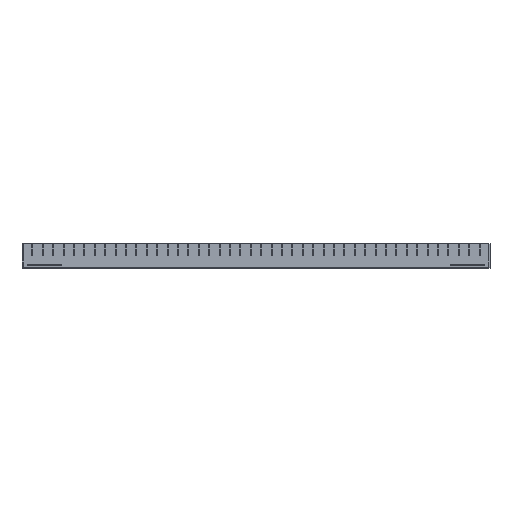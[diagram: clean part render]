
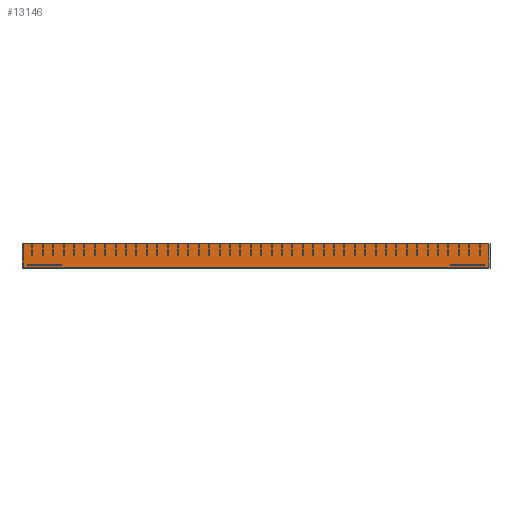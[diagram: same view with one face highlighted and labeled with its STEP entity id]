
A CAD part, top view. The second image highlights one B-rep face of the part: STEP entity #13146.
In plain terms, the highlighted planar face has unit normal (0, 0, 1).
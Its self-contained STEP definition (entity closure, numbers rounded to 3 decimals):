
#259 = AXIS2_PLACEMENT_3D ( 'NONE', #11536, #5368, #14028 ) ;
#1675 = CARTESIAN_POINT ( 'NONE',  ( -63.234, -4.407, 3. ) ) ;
#2099 = CARTESIAN_POINT ( 'NONE',  ( -63.234, 45.593, 3. ) ) ;
#2179 = EDGE_LOOP ( 'NONE', ( #14642, #15071, #14323, #14000 ) ) ;
#3580 = CARTESIAN_POINT ( 'NONE',  ( 930.766, 45.593, 3. ) ) ;
#3779 = VERTEX_POINT ( 'NONE', #3580 ) ;
#3833 = EDGE_CURVE ( 'NONE', #6375, #12278, #15697, .T. ) ;
#4101 = PLANE ( 'NONE',  #259 ) ;
#5368 = DIRECTION ( 'NONE',  ( 0., 0., 1. ) ) ;
#6192 = VECTOR ( 'NONE', #9914, 1000. ) ;
#6375 = VERTEX_POINT ( 'NONE', #1675 ) ;
#6730 = CARTESIAN_POINT ( 'NONE',  ( 930.766, 45.593, 3. ) ) ;
#7830 = VECTOR ( 'NONE', #11639, 1000. ) ;
#8075 = LINE ( 'NONE', #2099, #15054 ) ;
#8805 = EDGE_CURVE ( 'NONE', #3779, #11847, #8075, .T. ) ;
#9914 = DIRECTION ( 'NONE',  ( 1., 0., 0. ) ) ;
#10567 = CARTESIAN_POINT ( 'NONE',  ( -63.234, 45.593, 3. ) ) ;
#10646 = CARTESIAN_POINT ( 'NONE',  ( -63.234, 45.593, 3. ) ) ;
#10801 = DIRECTION ( 'NONE',  ( -1., 0., 0. ) ) ;
#11331 = CARTESIAN_POINT ( 'NONE',  ( 930.766, -4.407, 3. ) ) ;
#11536 = CARTESIAN_POINT ( 'NONE',  ( -63.234, -4.407, 3. ) ) ;
#11639 = DIRECTION ( 'NONE',  ( 0., 1., 0. ) ) ;
#11847 = VERTEX_POINT ( 'NONE', #10646 ) ;
#12251 = LINE ( 'NONE', #10567, #15152 ) ;
#12278 = VERTEX_POINT ( 'NONE', #11331 ) ;
#13146 = ADVANCED_FACE ( 'NONE', ( #14809 ), #4101, .T. ) ;
#13235 = EDGE_CURVE ( 'NONE', #12278, #3779, #14029, .T. ) ;
#13660 = CARTESIAN_POINT ( 'NONE',  ( -63.234, -4.407, 3. ) ) ;
#14000 = ORIENTED_EDGE ( 'NONE', *, *, #8805, .T. ) ;
#14028 = DIRECTION ( 'NONE',  ( 1., 0., 0. ) ) ;
#14029 = LINE ( 'NONE', #6730, #7830 ) ;
#14323 = ORIENTED_EDGE ( 'NONE', *, *, #13235, .T. ) ;
#14638 = EDGE_CURVE ( 'NONE', #11847, #6375, #12251, .T. ) ;
#14642 = ORIENTED_EDGE ( 'NONE', *, *, #14638, .T. ) ;
#14809 = FACE_OUTER_BOUND ( 'NONE', #2179, .T. ) ;
#15054 = VECTOR ( 'NONE', #10801, 1000. ) ;
#15071 = ORIENTED_EDGE ( 'NONE', *, *, #3833, .T. ) ;
#15152 = VECTOR ( 'NONE', #15559, 1000. ) ;
#15559 = DIRECTION ( 'NONE',  ( 0., -1., 0. ) ) ;
#15697 = LINE ( 'NONE', #13660, #6192 ) ;
